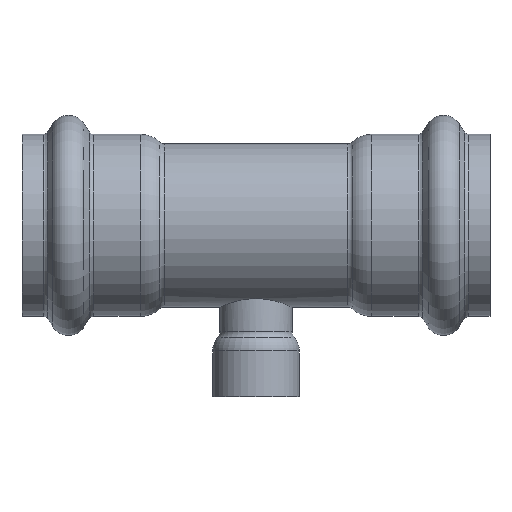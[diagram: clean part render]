
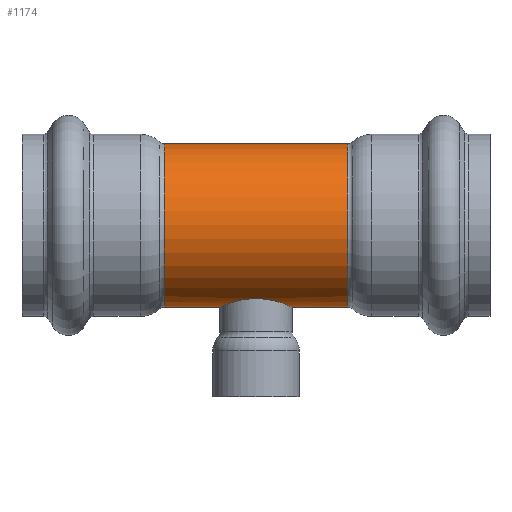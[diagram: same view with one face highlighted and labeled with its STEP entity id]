
A CAD part, top view. The second image highlights one B-rep face of the part: STEP entity #1174.
In plain terms, the highlighted cylindrical face has radius 24.13 mm (diameter 48.26 mm), a full revolution.
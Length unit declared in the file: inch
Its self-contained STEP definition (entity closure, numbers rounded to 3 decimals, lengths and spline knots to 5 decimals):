
#112=FACE_OUTER_BOUND('',#163,.T.);
#163=EDGE_LOOP('',(#924,#925,#926,#927,#928,#929,#930,#931,#932,#933,#934,
#935,#936,#937));
#270=CIRCLE('',#1329,0.95);
#271=CIRCLE('',#1330,0.95);
#272=CIRCLE('',#1331,0.95);
#273=CIRCLE('',#1333,0.95);
#274=CIRCLE('',#1334,0.95);
#275=CIRCLE('',#1335,0.95);
#350=LINE('',#2184,#374);
#351=LINE('',#2185,#375);
#374=VECTOR('',#1686,0.95);
#375=VECTOR('',#1687,0.95);
#384=B_SPLINE_CURVE_WITH_KNOTS('',3,(#1886,#1887,#1888,#1889,#1890,#1891,
#1892,#1893,#1894,#1895),.UNSPECIFIED.,.F.,.F.,(4,2,2,2,4),(0.,0.40839,
0.81678,1.22453,1.63228),.UNSPECIFIED.);
#385=B_SPLINE_CURVE_WITH_KNOTS('',3,(#1897,#1898,#1899,#1900,#1901,#1902,
#1903,#1904,#1905,#1906),.UNSPECIFIED.,.F.,.F.,(4,2,2,2,4),(4.89684,
5.30458,5.71233,6.12072,6.52911),
 .UNSPECIFIED.);
#386=B_SPLINE_CURVE_WITH_KNOTS('',3,(#1908,#1909,#1910,#1911,#1912,#1913,
#1914,#1915,#1916,#1917),.UNSPECIFIED.,.F.,.F.,(4,2,2,2,4),(3.26456,
3.67295,4.08134,4.48909,4.89684),
 .UNSPECIFIED.);
#387=B_SPLINE_CURVE_WITH_KNOTS('',3,(#1923,#1924,#1925,#1926,#1927,#1928,
#1929,#1930,#1931,#1932),.UNSPECIFIED.,.F.,.F.,(4,2,2,2,4),(1.63228,
2.04003,2.44778,2.85617,3.26456),
 .UNSPECIFIED.);
#392=VERTEX_POINT('',#1884);
#393=VERTEX_POINT('',#1885);
#394=VERTEX_POINT('',#1896);
#395=VERTEX_POINT('',#1907);
#472=VERTEX_POINT('',#2171);
#473=VERTEX_POINT('',#2173);
#474=VERTEX_POINT('',#2175);
#475=VERTEX_POINT('',#2179);
#476=VERTEX_POINT('',#2180);
#477=VERTEX_POINT('',#2182);
#528=EDGE_CURVE('',#392,#393,#384,.T.);
#529=EDGE_CURVE('',#394,#392,#385,.T.);
#530=EDGE_CURVE('',#395,#394,#386,.T.);
#534=EDGE_CURVE('',#393,#395,#387,.T.);
#636=EDGE_CURVE('',#473,#472,#270,.T.);
#637=EDGE_CURVE('',#474,#473,#271,.T.);
#638=EDGE_CURVE('',#472,#474,#272,.T.);
#639=EDGE_CURVE('',#475,#476,#273,.T.);
#640=EDGE_CURVE('',#477,#475,#274,.T.);
#641=EDGE_CURVE('',#477,#393,#350,.T.);
#642=EDGE_CURVE('',#394,#474,#351,.T.);
#643=EDGE_CURVE('',#476,#477,#275,.T.);
#924=ORIENTED_EDGE('',*,*,#639,.F.);
#925=ORIENTED_EDGE('',*,*,#640,.F.);
#926=ORIENTED_EDGE('',*,*,#641,.T.);
#927=ORIENTED_EDGE('',*,*,#534,.T.);
#928=ORIENTED_EDGE('',*,*,#530,.T.);
#929=ORIENTED_EDGE('',*,*,#642,.T.);
#930=ORIENTED_EDGE('',*,*,#637,.T.);
#931=ORIENTED_EDGE('',*,*,#636,.T.);
#932=ORIENTED_EDGE('',*,*,#638,.T.);
#933=ORIENTED_EDGE('',*,*,#642,.F.);
#934=ORIENTED_EDGE('',*,*,#529,.T.);
#935=ORIENTED_EDGE('',*,*,#528,.T.);
#936=ORIENTED_EDGE('',*,*,#641,.F.);
#937=ORIENTED_EDGE('',*,*,#643,.F.);
#1089=CYLINDRICAL_SURFACE('',#1332,0.95);
#1174=ADVANCED_FACE('',(#112),#1089,.T.);
#1329=AXIS2_PLACEMENT_3D('',#2174,#1674,#1675);
#1330=AXIS2_PLACEMENT_3D('',#2176,#1676,#1677);
#1331=AXIS2_PLACEMENT_3D('',#2177,#1678,#1679);
#1332=AXIS2_PLACEMENT_3D('',#2178,#1680,#1681);
#1333=AXIS2_PLACEMENT_3D('',#2181,#1682,#1683);
#1334=AXIS2_PLACEMENT_3D('',#2183,#1684,#1685);
#1335=AXIS2_PLACEMENT_3D('',#2186,#1688,#1689);
#1674=DIRECTION('center_axis',(1.,0.,0.));
#1675=DIRECTION('ref_axis',(0.,1.,0.));
#1676=DIRECTION('center_axis',(1.,0.,0.));
#1677=DIRECTION('ref_axis',(0.,1.,0.));
#1678=DIRECTION('center_axis',(1.,0.,0.));
#1679=DIRECTION('ref_axis',(0.,1.,0.));
#1680=DIRECTION('center_axis',(1.,0.,0.));
#1681=DIRECTION('ref_axis',(0.,1.,0.));
#1682=DIRECTION('center_axis',(1.,0.,0.));
#1683=DIRECTION('ref_axis',(0.,1.,0.));
#1684=DIRECTION('center_axis',(1.,0.,0.));
#1685=DIRECTION('ref_axis',(0.,1.,0.));
#1686=DIRECTION('',(-1.,0.,0.));
#1687=DIRECTION('',(-1.,0.,0.));
#1688=DIRECTION('center_axis',(1.,0.,0.));
#1689=DIRECTION('ref_axis',(0.,1.,0.));
#1884=CARTESIAN_POINT('',(0.,-0.85212,0.42));
#1885=CARTESIAN_POINT('',(0.42,-0.95,0.));
#1886=CARTESIAN_POINT('Ctrl Pts',(0.,-0.85212,
0.42));
#1887=CARTESIAN_POINT('Ctrl Pts',(0.05359,-0.85212,
0.42));
#1888=CARTESIAN_POINT('Ctrl Pts',(0.11015,-0.85771,0.40914));
#1889=CARTESIAN_POINT('Ctrl Pts',(0.21335,-0.87695,
0.36607));
#1890=CARTESIAN_POINT('Ctrl Pts',(0.26007,-0.89024,
0.3339));
#1891=CARTESIAN_POINT('Ctrl Pts',(0.33384,-0.91451,
0.26013));
#1892=CARTESIAN_POINT('Ctrl Pts',(0.36606,-0.92721,
0.21339));
#1893=CARTESIAN_POINT('Ctrl Pts',(0.40916,-0.94505,
0.1101));
#1894=CARTESIAN_POINT('Ctrl Pts',(0.42,-0.95,0.05351));
#1895=CARTESIAN_POINT('Ctrl Pts',(0.42,-0.95,0.));
#1896=CARTESIAN_POINT('',(-0.42,-0.95,0.));
#1897=CARTESIAN_POINT('Ctrl Pts',(-0.42,-0.95,0.));
#1898=CARTESIAN_POINT('Ctrl Pts',(-0.42,-0.95,0.05351));
#1899=CARTESIAN_POINT('Ctrl Pts',(-0.40916,-0.94505,
0.1101));
#1900=CARTESIAN_POINT('Ctrl Pts',(-0.36606,-0.92721,
0.21339));
#1901=CARTESIAN_POINT('Ctrl Pts',(-0.33384,-0.91451,
0.26013));
#1902=CARTESIAN_POINT('Ctrl Pts',(-0.26007,-0.89024,
0.3339));
#1903=CARTESIAN_POINT('Ctrl Pts',(-0.21335,-0.87695,
0.36607));
#1904=CARTESIAN_POINT('Ctrl Pts',(-0.11015,-0.85771,
0.40914));
#1905=CARTESIAN_POINT('Ctrl Pts',(-0.05359,-0.85212,
0.42));
#1906=CARTESIAN_POINT('Ctrl Pts',(0.,-0.85212,0.42));
#1907=CARTESIAN_POINT('',(0.,-0.85212,-0.42));
#1908=CARTESIAN_POINT('Ctrl Pts',(0.,-0.85212,
-0.42));
#1909=CARTESIAN_POINT('Ctrl Pts',(-0.05359,-0.85212,
-0.42));
#1910=CARTESIAN_POINT('Ctrl Pts',(-0.11015,-0.85771,
-0.40914));
#1911=CARTESIAN_POINT('Ctrl Pts',(-0.21335,-0.87695,
-0.36607));
#1912=CARTESIAN_POINT('Ctrl Pts',(-0.26007,-0.89024,
-0.3339));
#1913=CARTESIAN_POINT('Ctrl Pts',(-0.33384,-0.91451,
-0.26013));
#1914=CARTESIAN_POINT('Ctrl Pts',(-0.36606,-0.92721,
-0.21339));
#1915=CARTESIAN_POINT('Ctrl Pts',(-0.40916,-0.94505,
-0.1101));
#1916=CARTESIAN_POINT('Ctrl Pts',(-0.42,-0.95,-0.05351));
#1917=CARTESIAN_POINT('Ctrl Pts',(-0.42,-0.95,0.));
#1923=CARTESIAN_POINT('Ctrl Pts',(0.42,-0.95,0.));
#1924=CARTESIAN_POINT('Ctrl Pts',(0.42,-0.95,-0.05351));
#1925=CARTESIAN_POINT('Ctrl Pts',(0.40916,-0.94505,
-0.1101));
#1926=CARTESIAN_POINT('Ctrl Pts',(0.36606,-0.92721,
-0.21339));
#1927=CARTESIAN_POINT('Ctrl Pts',(0.33384,-0.91451,
-0.26013));
#1928=CARTESIAN_POINT('Ctrl Pts',(0.26007,-0.89024,
-0.3339));
#1929=CARTESIAN_POINT('Ctrl Pts',(0.21335,-0.87695,
-0.36607));
#1930=CARTESIAN_POINT('Ctrl Pts',(0.11015,-0.85771,-0.40914));
#1931=CARTESIAN_POINT('Ctrl Pts',(0.05359,-0.85212,
-0.42));
#1932=CARTESIAN_POINT('Ctrl Pts',(0.,-0.85212,
-0.42));
#2171=CARTESIAN_POINT('',(-1.06935,0.,0.95));
#2173=CARTESIAN_POINT('',(-1.06935,0.95,0.));
#2174=CARTESIAN_POINT('Origin',(-1.06935,0.,0.));
#2175=CARTESIAN_POINT('',(-1.06935,-0.95,0.));
#2176=CARTESIAN_POINT('Origin',(-1.06935,0.,0.));
#2177=CARTESIAN_POINT('Origin',(-1.06935,0.,0.));
#2178=CARTESIAN_POINT('Origin',(0.53468,0.,0.));
#2179=CARTESIAN_POINT('',(1.06935,0.95,0.));
#2180=CARTESIAN_POINT('',(1.06935,0.,0.95));
#2181=CARTESIAN_POINT('Origin',(1.06935,0.,0.));
#2182=CARTESIAN_POINT('',(1.06935,-0.95,0.));
#2183=CARTESIAN_POINT('Origin',(1.06935,0.,0.));
#2184=CARTESIAN_POINT('',(0.53468,-0.95,0.));
#2185=CARTESIAN_POINT('',(0.53468,-0.95,0.));
#2186=CARTESIAN_POINT('Origin',(1.06935,0.,0.));
